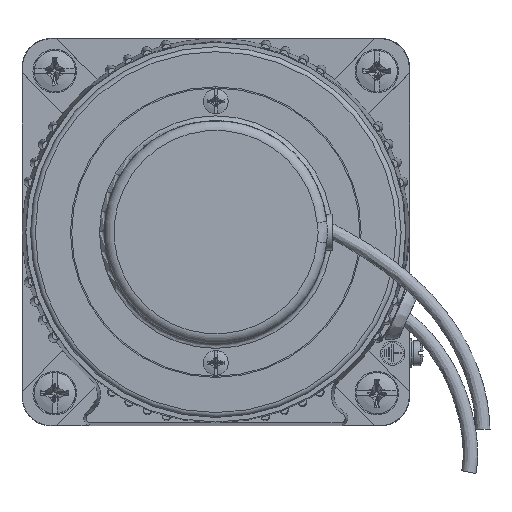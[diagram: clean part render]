
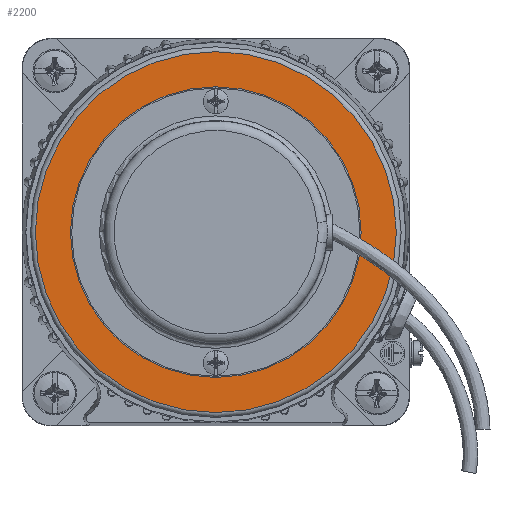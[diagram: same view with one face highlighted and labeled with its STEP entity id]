
A CAD part, left-side view. The second image highlights one B-rep face of the part: STEP entity #2200.
In plain terms, the highlighted planar face has unit normal (-1, 0, 0).
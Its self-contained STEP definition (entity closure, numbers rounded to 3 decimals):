
#1308=FACE_BOUND('',#4478,.T.);
#1309=FACE_BOUND('',#4479,.T.);
#2200=ADVANCED_FACE('',(#1308,#1309),#2593,.F.);
#2593=PLANE('',#16832);
#4478=EDGE_LOOP('',(#9822));
#4479=EDGE_LOOP('',(#9823));
#9822=ORIENTED_EDGE('',*,*,#13867,.F.);
#9823=ORIENTED_EDGE('',*,*,#13849,.T.);
#11678=VERTEX_POINT('',#34217);
#11696=VERTEX_POINT('',#34259);
#13849=EDGE_CURVE('',#11678,#11678,#15649,.T.);
#13867=EDGE_CURVE('',#11696,#11696,#15651,.T.);
#15649=CIRCLE('',#16823,37.25);
#15651=CIRCLE('',#16831,30.);
#16823=AXIS2_PLACEMENT_3D('',#34216,#19583,#19584);
#16831=AXIS2_PLACEMENT_3D('',#34258,#19615,#19616);
#16832=AXIS2_PLACEMENT_3D('',#34260,#19617,#19618);
#19583=DIRECTION('',(-1.,0.,0.));
#19584=DIRECTION('',(0.,0.,-1.));
#19615=DIRECTION('',(-1.,0.,0.));
#19616=DIRECTION('',(0.,0.,1.));
#19617=DIRECTION('',(1.,0.,0.));
#19618=DIRECTION('',(0.,0.,-1.));
#34216=CARTESIAN_POINT('',(-86.,40.,40.));
#34217=CARTESIAN_POINT('',(-86.,40.,2.75));
#34258=CARTESIAN_POINT('',(-86.,40.,40.));
#34259=CARTESIAN_POINT('',(-86.,40.,70.));
#34260=CARTESIAN_POINT('',(-86.,40.,78.25));
